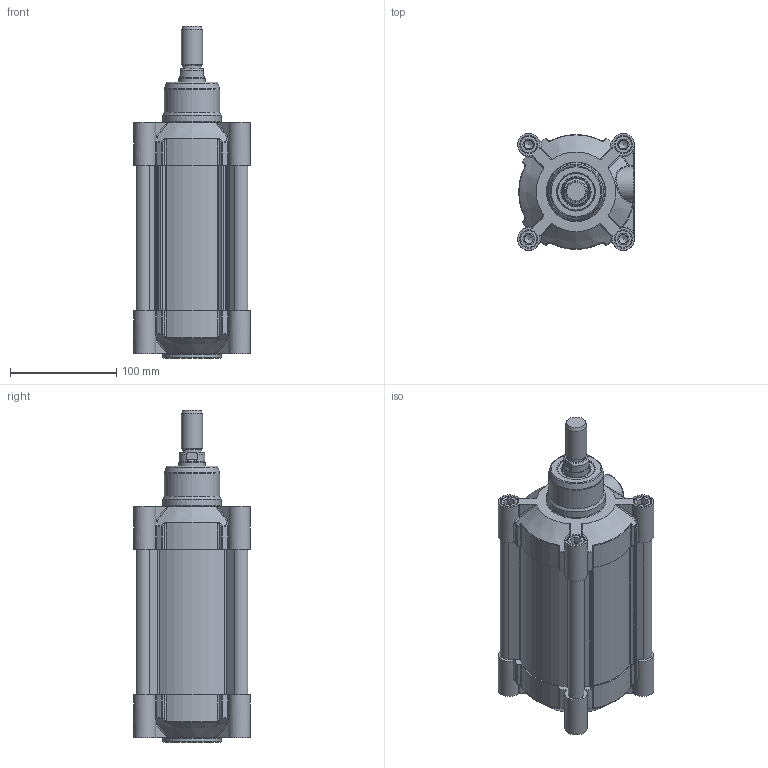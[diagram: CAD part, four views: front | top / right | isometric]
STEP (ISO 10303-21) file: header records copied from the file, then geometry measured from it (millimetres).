
FILE_DESCRIPTION(/* description */ (''),/* implementation_level */ '2;1');
FILE_NAME(/* name */ 'T:\Archivio Inventor\- 00 NUOVI STP PER SITO CON STELO CHE SI MUOVE\SERIE H - U\SERIE HDM\HDM100 - TUBO NUOVO\HDM100.080.GS.M.stp',/* time_stamp */ '2018-08-02T09:19:33+02:00',/* author */ ('carlo.corazza'),/* organization */ (''),/* preprocessor_version */ 'ST-DEVELOPER v16.5',/* originating_system */ 'Autodesk Inventor 2017',/* authorisation */ '');
FILE_SCHEMA (('AUTOMOTIVE_DESIGN { 1 0 10303 214 3 1 1 }'));
Length unit declared in the file: millimetre
Products named in the file (5): HDM100.080.GS.M; TP; TA; STELO-080; CORPO-080
Assembly tree (4 placements, depth 2):
  HDM100.080.GS.M
    TP
    TA
    STELO-080
    CORPO-080
Bounding box: 110 x 110 x 313 mm (x, y, z)
Volume: 937971.1 mm3; surface area: 351982.3 mm2
Topology: 4 solids, 29 shells, 1355 faces, 3135 edges, 1912 vertices
Faces by surface type: plane 408, cylinder 313, bspline 270, torus 126, cone 122, sphere 116
Full cylindrical faces by diameter (mm): 5 x2, 5.9 x2, 6.5 x2, 7.25 x2, 8.376 x8, 9.4 x4, 10 x8, 10.3 x8, 11.8 x4, 11.9 x2, 12 x4, 16 x9, 16.3 x8, 17 x2, 17.5 x1, 18.631 x2, 20 x1, 24.5 x1, 25 x1, 25.8 x1, 25.962 x1, 30 x1, 31.5 x2, 35 x3, 52 x1, 55 x2, 100 x1
Entity records: 43668 total; most frequent: CARTESIAN_POINT 13702, ORIENTED_EDGE 5710, DIRECTION 5644, EDGE_CURVE 2855, AXIS2_PLACEMENT_3D 2293, VERTEX_POINT 1857, EDGE_LOOP 1690, STYLED_ITEM 1359
